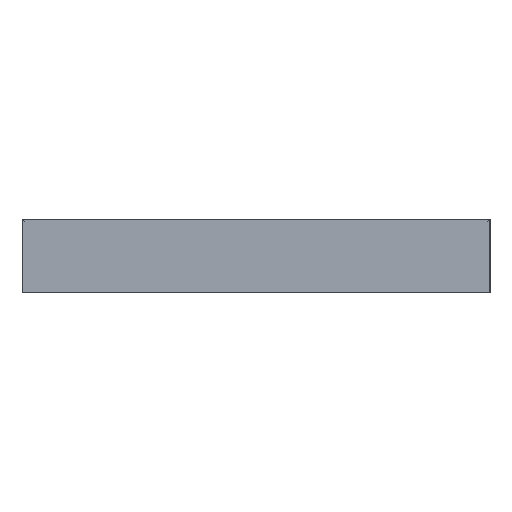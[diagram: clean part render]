
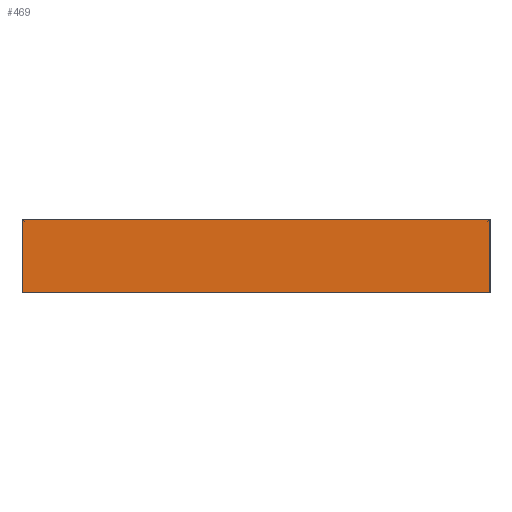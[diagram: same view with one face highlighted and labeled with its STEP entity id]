
A CAD part, left-side view. The second image highlights one B-rep face of the part: STEP entity #469.
In plain terms, the highlighted planar face has unit normal (-1, 0, 0).
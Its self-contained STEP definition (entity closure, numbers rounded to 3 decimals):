
#25=PLANE('',#545);
#51=FACE_OUTER_BOUND('',#78,.T.);
#78=EDGE_LOOP('',(#413,#414,#415,#416));
#116=LINE('',#826,#148);
#118=LINE('',#831,#150);
#123=LINE('',#840,#155);
#124=LINE('',#842,#156);
#148=VECTOR('',#686,10.);
#150=VECTOR('',#690,10.);
#155=VECTOR('',#699,10.);
#156=VECTOR('',#702,10.);
#217=VERTEX_POINT('',#812);
#220=VERTEX_POINT('',#822);
#222=VERTEX_POINT('',#829);
#224=VERTEX_POINT('',#838);
#284=EDGE_CURVE('',#217,#220,#116,.T.);
#286=EDGE_CURVE('',#222,#217,#118,.T.);
#291=EDGE_CURVE('',#224,#220,#123,.T.);
#292=EDGE_CURVE('',#222,#224,#124,.T.);
#413=ORIENTED_EDGE('',*,*,#292,.T.);
#414=ORIENTED_EDGE('',*,*,#291,.T.);
#415=ORIENTED_EDGE('',*,*,#284,.F.);
#416=ORIENTED_EDGE('',*,*,#286,.F.);
#469=ADVANCED_FACE('',(#51),#25,.T.);
#545=AXIS2_PLACEMENT_3D('',#841,#700,#701);
#686=DIRECTION('',(0.,-1.,0.));
#690=DIRECTION('',(0.,0.,1.));
#699=DIRECTION('',(0.,0.,1.));
#700=DIRECTION('center_axis',(-1.,0.,0.));
#701=DIRECTION('ref_axis',(0.,-1.,0.));
#702=DIRECTION('',(0.,-1.,0.));
#812=CARTESIAN_POINT('',(0.,35.,5.5));
#822=CARTESIAN_POINT('',(0.,0.,5.5));
#826=CARTESIAN_POINT('',(0.,35.,5.5));
#829=CARTESIAN_POINT('',(0.,35.,0.));
#831=CARTESIAN_POINT('',(0.,35.,0.));
#838=CARTESIAN_POINT('',(0.,0.,0.));
#840=CARTESIAN_POINT('',(0.,0.,0.));
#841=CARTESIAN_POINT('Origin',(0.,35.,0.));
#842=CARTESIAN_POINT('',(0.,35.,0.));
